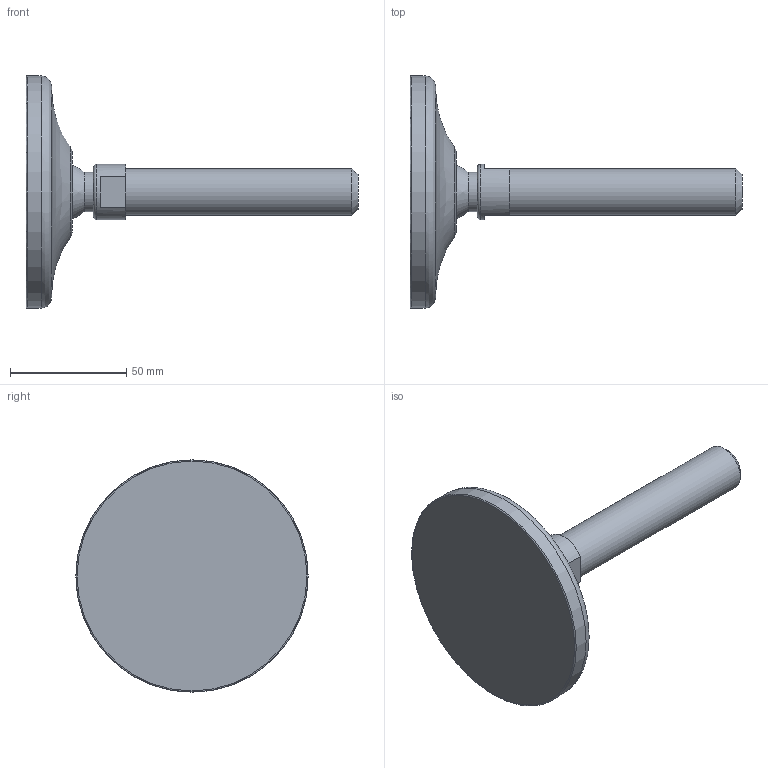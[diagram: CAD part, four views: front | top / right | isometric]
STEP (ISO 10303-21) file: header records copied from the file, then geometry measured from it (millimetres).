
FILE_DESCRIPTION(('STEP AP203'),'2;1');
FILE_NAME('10562.stp','2015-09-23T07:19:34',(''),(''),'2008.1.107','THINKDESIGN','');
FILE_SCHEMA(('CONFIG_CONTROL_DESIGN'));
Length unit declared in the file: millimetre
Bounding box: 143 x 100 x 100 mm (x, y, z)
Volume: 145820.3 mm3; surface area: 28718.6 mm2
Topology: 4 solids, 4 shells, 23 faces, 52 edges, 37 vertices
Faces by surface type: plane 12, bspline 7, cylinder 4
Full cylindrical faces by diameter (mm): 17 x1, 20 x1, 24 x1, 100 x1
Entity records: 1273 total; most frequent: CARTESIAN_POINT 643, DIRECTION 123, ORIENTED_EDGE 104, AXIS2_PLACEMENT_3D 55, EDGE_CURVE 52, CIRCLE 39, VERTEX_POINT 37, EDGE_LOOP 23
